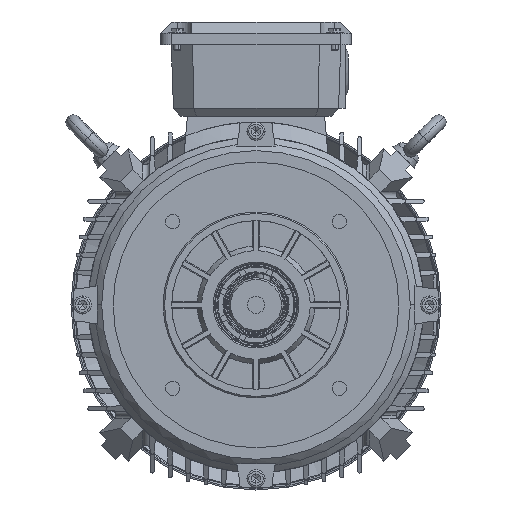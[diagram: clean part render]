
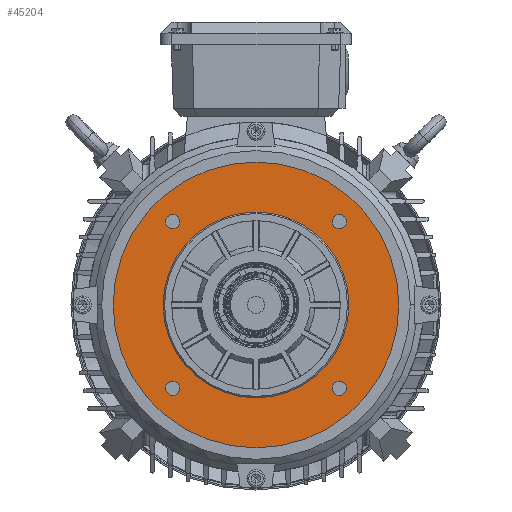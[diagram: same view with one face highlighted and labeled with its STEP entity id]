
A CAD part, left-side view. The second image highlights one B-rep face of the part: STEP entity #45204.
In plain terms, the highlighted planar face has unit normal (-1, 0, 0).
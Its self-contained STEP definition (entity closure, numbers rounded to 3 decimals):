
#13819 = CIRCLE ( 'NONE', #14893, 5. ) ;
#14788 = CARTESIAN_POINT ( 'NONE',  ( 4., -58.336, -53.336 ) ) ;
#14789 = DIRECTION ( 'NONE',  ( 0., 0., 1. ) ) ;
#14790 = DIRECTION ( 'NONE',  ( -1., 0., 0. ) ) ;
#14791 = CARTESIAN_POINT ( 'NONE',  ( 4., -58.336, -58.336 ) ) ;
#14792 = AXIS2_PLACEMENT_3D ( 'NONE', #14791, #14790, #14789 ) ;
#14793 = CIRCLE ( 'NONE', #14792, 5. ) ;
#14794 = CARTESIAN_POINT ( 'NONE',  ( 4., -58.336, -63.336 ) ) ;
#14803 = DIRECTION ( 'NONE',  ( 0., 0., 1. ) ) ;
#14804 = DIRECTION ( 'NONE',  ( -1., 0., 0. ) ) ;
#14805 = CARTESIAN_POINT ( 'NONE',  ( 4., 58.336, -58.336 ) ) ;
#14806 = AXIS2_PLACEMENT_3D ( 'NONE', #14805, #14804, #14803 ) ;
#14807 = CIRCLE ( 'NONE', #14806, 5. ) ;
#14808 = CARTESIAN_POINT ( 'NONE',  ( 4., 58.336, -63.336 ) ) ;
#14834 = CARTESIAN_POINT ( 'NONE',  ( 4., 58.336, 53.336 ) ) ;
#14861 = CARTESIAN_POINT ( 'NONE',  ( 4., 58.336, -53.336 ) ) ;
#14862 = CARTESIAN_POINT ( 'NONE',  ( 4., -58.336, 53.336 ) ) ;
#14863 = CIRCLE ( 'NONE', #14925, 5. ) ;
#14889 = CARTESIAN_POINT ( 'NONE',  ( 4., 58.336, 63.336 ) ) ;
#14890 = DIRECTION ( 'NONE',  ( 0., 0., 1. ) ) ;
#14891 = DIRECTION ( 'NONE',  ( -1., 0., 0. ) ) ;
#14892 = CARTESIAN_POINT ( 'NONE',  ( 4., 58.336, 58.336 ) ) ;
#14893 = AXIS2_PLACEMENT_3D ( 'NONE', #14892, #14891, #14890 ) ;
#14921 = CARTESIAN_POINT ( 'NONE',  ( 4., -58.336, 63.336 ) ) ;
#14922 = DIRECTION ( 'NONE',  ( 0., 0., 1. ) ) ;
#14923 = DIRECTION ( 'NONE',  ( -1., 0., 0. ) ) ;
#14924 = CARTESIAN_POINT ( 'NONE',  ( 4., -58.336, 58.336 ) ) ;
#14925 = AXIS2_PLACEMENT_3D ( 'NONE', #14924, #14923, #14922 ) ;
#15620 = CIRCLE ( 'NONE', #15682, 65. ) ;
#15677 = CARTESIAN_POINT ( 'NONE',  ( 4., 0., -65. ) ) ;
#15678 = CARTESIAN_POINT ( 'NONE',  ( 4., 0., 65. ) ) ;
#15679 = DIRECTION ( 'NONE',  ( 0., 0., 1. ) ) ;
#15680 = DIRECTION ( 'NONE',  ( -1., 0., 0. ) ) ;
#15681 = CARTESIAN_POINT ( 'NONE',  ( 4., 0., 0. ) ) ;
#15682 = AXIS2_PLACEMENT_3D ( 'NONE', #15681, #15680, #15679 ) ;
#15705 = CARTESIAN_POINT ( 'NONE',  ( 4., 0., -100. ) ) ;
#15807 = CARTESIAN_POINT ( 'NONE',  ( 4., 0., 100. ) ) ;
#15808 = DIRECTION ( 'NONE',  ( 0., 0., 1. ) ) ;
#15809 = DIRECTION ( 'NONE',  ( -1., 0., 0. ) ) ;
#15810 = CARTESIAN_POINT ( 'NONE',  ( 4., 0., 0. ) ) ;
#15811 = AXIS2_PLACEMENT_3D ( 'NONE', #15810, #15809, #15808 ) ;
#15812 = CIRCLE ( 'NONE', #15811, 100. ) ;
#45134 = EDGE_LOOP ( 'NONE', ( #45188, #45190 ) ) ;
#45146 = EDGE_CURVE ( 'NONE', #97238, #97236, #114552, .T. ) ;
#45188 = ORIENTED_EDGE ( 'NONE', *, *, #45189, .F. ) ;
#45189 = EDGE_CURVE ( 'NONE', #96589, #96586, #114768, .T. ) ;
#45190 = ORIENTED_EDGE ( 'NONE', *, *, #96588, .F. ) ;
#45191 = EDGE_LOOP ( 'NONE', ( #45192, #45194 ) ) ;
#45192 = ORIENTED_EDGE ( 'NONE', *, *, #45193, .F. ) ;
#45193 = EDGE_CURVE ( 'NONE', #96562, #96557, #114881, .T. ) ;
#45194 = ORIENTED_EDGE ( 'NONE', *, *, #96561, .F. ) ;
#45195 = EDGE_LOOP ( 'NONE', ( #45196, #45197 ) ) ;
#45196 = ORIENTED_EDGE ( 'NONE', *, *, #97233, .F. ) ;
#45197 = ORIENTED_EDGE ( 'NONE', *, *, #45146, .F. ) ;
#45198 = EDGE_LOOP ( 'NONE', ( #45199, #45200 ) ) ;
#45199 = ORIENTED_EDGE ( 'NONE', *, *, #97371, .T. ) ;
#45200 = ORIENTED_EDGE ( 'NONE', *, *, #45243, .T. ) ;
#45204 = ADVANCED_FACE ( 'NONE', ( #114866, #114864, #114862, #114860, #114859, #114857 ), #114856, .F. ) ;
#45205 = EDGE_LOOP ( 'NONE', ( #45206, #45208 ) ) ;
#45206 = ORIENTED_EDGE ( 'NONE', *, *, #45207, .F. ) ;
#45207 = EDGE_CURVE ( 'NONE', #96501, #96497, #114852, .T. ) ;
#45208 = ORIENTED_EDGE ( 'NONE', *, *, #96500, .F. ) ;
#45209 = EDGE_LOOP ( 'NONE', ( #45210, #45212 ) ) ;
#45210 = ORIENTED_EDGE ( 'NONE', *, *, #45211, .F. ) ;
#45211 = EDGE_CURVE ( 'NONE', #96616, #96611, #114834, .T. ) ;
#45212 = ORIENTED_EDGE ( 'NONE', *, *, #96614, .F. ) ;
#45243 = EDGE_CURVE ( 'NONE', #97269, #97372, #115124, .T. ) ;
#96497 = VERTEX_POINT ( 'NONE', #14794 ) ;
#96500 = EDGE_CURVE ( 'NONE', #96497, #96501, #14793, .T. ) ;
#96501 = VERTEX_POINT ( 'NONE', #14788 ) ;
#96557 = VERTEX_POINT ( 'NONE', #14808 ) ;
#96561 = EDGE_CURVE ( 'NONE', #96557, #96562, #14807, .T. ) ;
#96562 = VERTEX_POINT ( 'NONE', #14861 ) ;
#96586 = VERTEX_POINT ( 'NONE', #14834 ) ;
#96588 = EDGE_CURVE ( 'NONE', #96586, #96589, #13819, .T. ) ;
#96589 = VERTEX_POINT ( 'NONE', #14889 ) ;
#96611 = VERTEX_POINT ( 'NONE', #14862 ) ;
#96614 = EDGE_CURVE ( 'NONE', #96611, #96616, #14863, .T. ) ;
#96616 = VERTEX_POINT ( 'NONE', #14921 ) ;
#97233 = EDGE_CURVE ( 'NONE', #97236, #97238, #15620, .T. ) ;
#97236 = VERTEX_POINT ( 'NONE', #15678 ) ;
#97238 = VERTEX_POINT ( 'NONE', #15677 ) ;
#97269 = VERTEX_POINT ( 'NONE', #15705 ) ;
#97371 = EDGE_CURVE ( 'NONE', #97372, #97269, #15812, .T. ) ;
#97372 = VERTEX_POINT ( 'NONE', #15807 ) ;
#114536 = DIRECTION ( 'NONE',  ( 0., 0., 1. ) ) ;
#114538 = DIRECTION ( 'NONE',  ( -1., 0., 0. ) ) ;
#114539 = CARTESIAN_POINT ( 'NONE',  ( 4., 0., 0. ) ) ;
#114540 = AXIS2_PLACEMENT_3D ( 'NONE', #114539, #114538, #114536 ) ;
#114552 = CIRCLE ( 'NONE', #114540, 65. ) ;
#114768 = CIRCLE ( 'NONE', #114891, 5. ) ;
#114826 = DIRECTION ( 'NONE',  ( 0., 0., 1. ) ) ;
#114828 = DIRECTION ( 'NONE',  ( -1., 0., 0. ) ) ;
#114830 = CARTESIAN_POINT ( 'NONE',  ( 4., -58.336, 58.336 ) ) ;
#114832 = AXIS2_PLACEMENT_3D ( 'NONE', #114830, #114828, #114826 ) ;
#114834 = CIRCLE ( 'NONE', #114832, 5. ) ;
#114838 = DIRECTION ( 'NONE',  ( 0., 0., 1. ) ) ;
#114840 = DIRECTION ( 'NONE',  ( -1., 0., 0. ) ) ;
#114843 = CARTESIAN_POINT ( 'NONE',  ( 4., -58.336, -58.336 ) ) ;
#114844 = AXIS2_PLACEMENT_3D ( 'NONE', #114843, #114840, #114838 ) ;
#114846 = DIRECTION ( 'NONE',  ( 0., 0., -1. ) ) ;
#114848 = DIRECTION ( 'NONE',  ( 1., 0., 0. ) ) ;
#114849 = AXIS2_PLACEMENT_3D ( 'NONE', #114855, #114848, #114846 ) ;
#114852 = CIRCLE ( 'NONE', #114844, 5. ) ;
#114855 = CARTESIAN_POINT ( 'NONE',  ( 4., 100., 0. ) ) ;
#114856 = PLANE ( 'NONE',  #114849 ) ;
#114857 = FACE_OUTER_BOUND ( 'NONE', #45198, .T. ) ;
#114859 = FACE_BOUND ( 'NONE', #45195, .T. ) ;
#114860 = FACE_BOUND ( 'NONE', #45191, .T. ) ;
#114862 = FACE_BOUND ( 'NONE', #45134, .T. ) ;
#114864 = FACE_BOUND ( 'NONE', #45209, .T. ) ;
#114866 = FACE_BOUND ( 'NONE', #45205, .T. ) ;
#114878 = DIRECTION ( 'NONE',  ( 0., 0., 1. ) ) ;
#114879 = DIRECTION ( 'NONE',  ( -1., 0., 0. ) ) ;
#114880 = AXIS2_PLACEMENT_3D ( 'NONE', #114893, #114879, #114878 ) ;
#114881 = CIRCLE ( 'NONE', #114880, 5. ) ;
#114885 = DIRECTION ( 'NONE',  ( 0., 0., 1. ) ) ;
#114887 = DIRECTION ( 'NONE',  ( -1., 0., 0. ) ) ;
#114889 = CARTESIAN_POINT ( 'NONE',  ( 4., 58.336, 58.336 ) ) ;
#114891 = AXIS2_PLACEMENT_3D ( 'NONE', #114889, #114887, #114885 ) ;
#114893 = CARTESIAN_POINT ( 'NONE',  ( 4., 58.336, -58.336 ) ) ;
#115119 = DIRECTION ( 'NONE',  ( 0., 0., 1. ) ) ;
#115120 = DIRECTION ( 'NONE',  ( -1., 0., 0. ) ) ;
#115121 = CARTESIAN_POINT ( 'NONE',  ( 4., 0., 0. ) ) ;
#115122 = AXIS2_PLACEMENT_3D ( 'NONE', #115121, #115120, #115119 ) ;
#115124 = CIRCLE ( 'NONE', #115122, 100. ) ;
